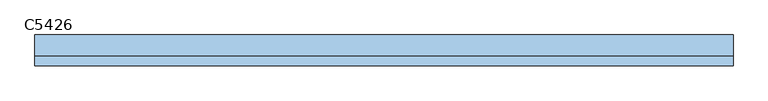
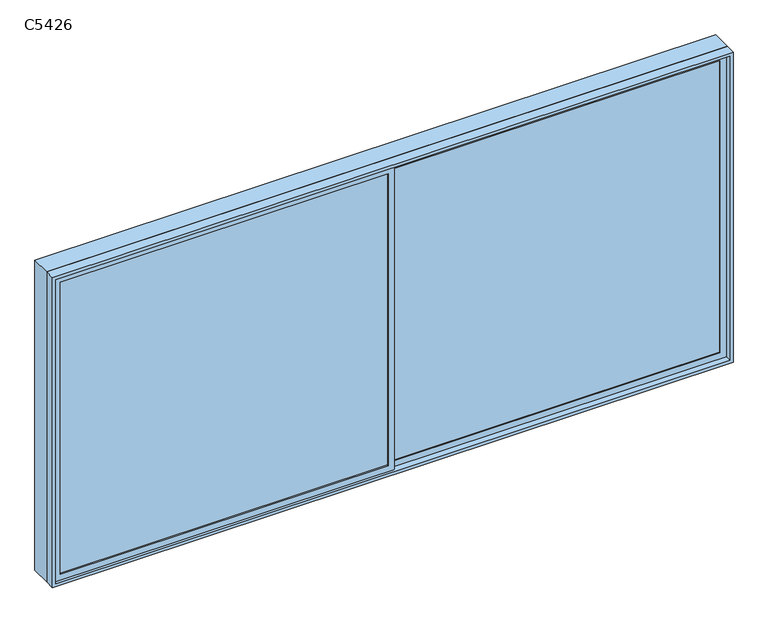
"""IFC4 building model written with IfcOpenShell, lengths in millimetres: window geometry, 推拉窗6 : C5426."""

from ifc_helpers import new_model, si_unit, frame, origin, place, context, project, spatial, polyline, outline, extrude, source, transform, mapped, element, save


def c5426_d54fb578(model_context):
    return source(origin(), model_context, "Body", "SweptSolid", [
        extrude(outline(polyline([(-2615.475, -23.1265625), (-2615.475, -13.1265625), (-15.475, -13.1265625), (-15.475, -23.1265625), (-2615.475, -23.1265625)])), frame((0.0, 0.0, 675.0), z_axis=(0.0, 0.0, 1.0), x_axis=(1.0, 0.0, 0.0)), (0.0, 0.0, 1.0), 2450.0),
        extrude(outline(polyline([(34.525, 6.8734375), (34.525, 16.8734375), (2634.525, 16.8734375), (2634.525, 6.8734375), (34.525, 6.8734375)])), frame((0.0, 0.0, 675.0), z_axis=(0.0, 0.0, 1.0), x_axis=(1.0, 0.0, 0.0)), (0.0, 0.0, 1.0), 2450.0),
        extrude(outline(polyline([(3200.0, -2690.475), (600.0, -2690.475), (600.0, 2709.525), (3200.0, 2709.525), (3200.0, -2690.475)]), holes=[polyline([(3145.0, 2659.525), (655.0, 2659.525), (655.0, -2640.475), (3145.0, -2640.475), (3145.0, 2659.525)])]), frame((0.0, 26.8734375, 0.0), z_axis=(0.0, 1.0, 0.0), x_axis=(0.0, 0.0, 1.0)), (0.0, 0.0, 1.0), 160.0),
        extrude(outline(polyline([(625.0, 34.525), (3175.0, 34.525), (3175.0, -2665.475), (625.0, -2665.475), (625.0, 34.525)]), holes=[polyline([(675.0, -15.475), (675.0, -2615.475), (3125.0, -2615.475), (3125.0, -15.475), (675.0, -15.475)])]), frame((0.0, -33.1265625, 0.0), z_axis=(0.0, 1.0, 0.0), x_axis=(0.0, 0.0, 1.0)), (0.0, 0.0, 1.0), 30.0),
        extrude(outline(polyline([(3175.0, -15.475), (625.0, -15.475), (625.0, 2684.525), (3175.0, 2684.525), (3175.0, -15.475)]), holes=[polyline([(3125.0, 34.525), (3125.0, 2634.525), (675.0, 2634.525), (675.0, 34.525), (3125.0, 34.525)])]), frame((0.0, -3.1265625, 0.0), z_axis=(0.0, 1.0, 0.0), x_axis=(0.0, 0.0, 1.0)), (0.0, 0.0, 1.0), 30.0),
        extrude(outline(polyline([(3200.0, -2690.475), (600.0, -2690.475), (600.0, 2709.525), (3200.0, 2709.525), (3200.0, -2690.475)]), holes=[polyline([(625.0, -2665.475), (3175.0, -2665.475), (3175.0, 2684.525), (625.0, 2684.525), (625.0, -2665.475)])]), frame((0.0, -53.1265625, 0.0), z_axis=(0.0, 1.0, 0.0), x_axis=(0.0, 0.0, 1.0)), (0.0, 0.0, 1.0), 80.0),
    ])


if __name__ == "__main__":
    model = new_model("IFC4")
    model_context = context("Model", 3, world=origin())
    ifc_project = project(units=[si_unit("LENGTHUNIT", "METRE", prefix="MILLI")], contexts=[model_context])
    site = spatial("IfcSite", under=ifc_project)
    building = spatial("IfcBuilding", under=site)
    placement = place(None, origin())
    c5426_shape = c5426_d54fb578(model_context)
    element("IfcWindow", 1, ObjectType="推拉窗6 : C5426", at=placement, inside=building, context=model_context, shape_type="MappedRepresentation", body=[
        mapped(c5426_shape, transform((0.0, 0.0, 0.0), x_axis=(1.0, 0.0, 0.0), y_axis=(0.0, 1.0, 0.0), z_axis=(0.0, 0.0, 1.0))),
    ])
    save(model, "model.ifc")
